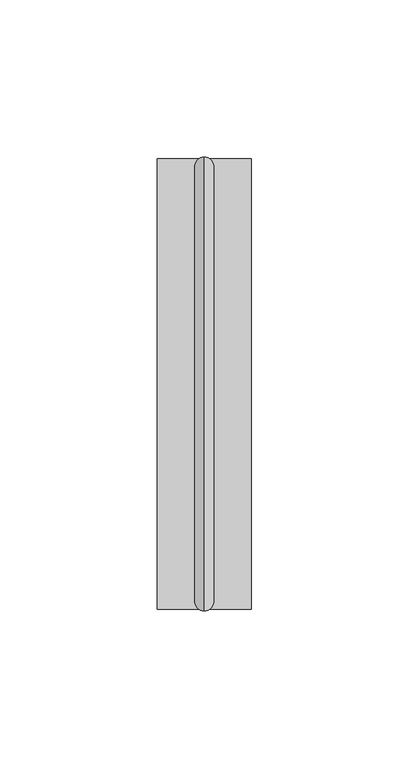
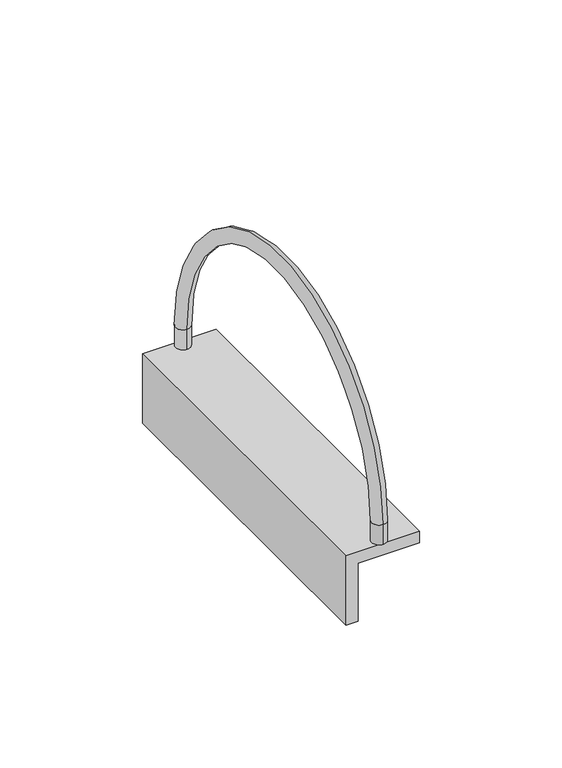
"""IFC4 building model written with IfcOpenShell, lengths in millimetres: proxy geometry, SUJECCIÓN DE TUBERÍA : SUJECCIÓN DE TUBERÍA D-50."""

from ifc_helpers import new_model, si_unit, point, frame, origin, place, context, project, spatial, polyline, circle_curve, ellipse_curve, trimmed, outline, extrude, source, transform, mapped, element, save
from ifc_brep_helpers import plane_surface, cylinder_surface, revolved_surface, advanced_brep


def generic_models_3b980cd4(model_context):
    return source(origin(), model_context, "Body", "SolidModel", [
        advanced_brep(
        [(15.0, -111.1270586, 0.0), (15.0, -117.1270586, 0.0), (15.0, -111.1270586, 8.4677949), (15.0, -117.1270586, 8.4677949), (15.0, -249.5, 8.4677949), (15.0, -255.5, 8.4677949), (15.0, -255.5, 0.0), (15.0, -249.5, 0.0)],
        [
            (0, 1, circle_curve(frame((15.0, -114.1270586, 0.0), z_axis=(0.0, 0.0, -1.0), x_axis=(0.0, -1.0, 0.0)), 3.0)),
            (1, 0, circle_curve(frame((15.0, -114.1270586, 0.0), z_axis=(0.0, 0.0, -1.0), x_axis=(0.0, -1.0, 0.0)), 3.0)),
            (0, 2),
            (2, 3, circle_curve(frame((15.0, -114.1270586, 8.4677949), z_axis=(0.0, 0.0, -1.0), x_axis=(0.0, -1.0, 0.0)), 3.0)),
            (3, 1),
            (3, 2, circle_curve(frame((15.0, -114.1270586, 8.4677949), z_axis=(0.0, 0.0, -1.0), x_axis=(0.0, -1.0, 0.0)), 3.0)),
            (4, 3, circle_curve(frame((15.0, -183.3135293, 8.4677949), z_axis=(-1.0, 0.0, 0.0), x_axis=(0.0, 1.0, 0.0)), 66.1864707)),
            (2, 5, circle_curve(frame((15.0, -183.3135293, 8.4677949), z_axis=(1.0, 0.0, 0.0), x_axis=(0.0, 1.0, 0.0)), 72.1864707)),
            (5, 4, circle_curve(frame((15.0, -252.5, 8.4677949), z_axis=(0.0, 0.0, 1.0), x_axis=(0.0, 1.0, 0.0)), 3.0)),
            (4, 5, circle_curve(frame((15.0, -252.5, 8.4677949), z_axis=(0.0, 0.0, 1.0), x_axis=(0.0, 1.0, 0.0)), 3.0)),
            (6, 7, circle_curve(frame((15.0, -252.5, 0.0), z_axis=(0.0, 0.0, -1.0), x_axis=(0.0, 1.0, 0.0)), 3.0)),
            (7, 6, circle_curve(frame((15.0, -252.5, 0.0), z_axis=(0.0, 0.0, -1.0), x_axis=(0.0, 1.0, 0.0)), 3.0)),
            (5, 6),
            (7, 4),
        ],
        [
            plane_surface(frame((0.0, -114.1270586, 0.0), z_axis=(0.0, 0.0, -1.0), x_axis=(1.0, 0.0, 0.0))),
            cylinder_surface(frame((15.0, -114.1270586, 0.0), z_axis=(0.0, 0.0, -1.0), x_axis=(0.0, -1.0, 0.0)), 3.0),
            revolved_surface(trimmed(ellipse_curve(frame((15.0, -114.1270586, 8.4677949), z_axis=(0.0, 0.0, -1.0), x_axis=(0.0, -1.0, 0.0)), 3.0, 3.0), [point((15.0, -111.1270586, 8.4677949))], [point((15.0, -117.1270586, 8.4677949))], True, "CARTESIAN"), (0.0, -183.3135293, 8.4677949), (1.0, 0.0, 0.0)),
            revolved_surface(trimmed(ellipse_curve(frame((15.0, -114.1270586, 8.4677949), z_axis=(0.0, 0.0, -1.0), x_axis=(0.0, -1.0, 0.0)), 3.0, 3.0), [point((15.0, -117.1270586, 8.4677949))], [point((15.0, -111.1270586, 8.4677949))], True, "CARTESIAN"), (0.0, -183.3135293, 8.4677949), (1.0, 0.0, 0.0)),
            plane_surface(frame((0.0, -252.5, 0.0), z_axis=(0.0, 0.0, -1.0), x_axis=(1.0, 0.0, 0.0))),
            cylinder_surface(frame((15.0, -252.5, 8.4677949), z_axis=(0.0, 0.0, 1.0), x_axis=(0.0, 1.0, 0.0)), 3.0),
        ],
        [
            (0, [[1, 2]]),
            (1, [[-1, 3, 4, 5]]),
            (1, [[-2, -5, 6, -3]]),
            (2, [[7, -4, 8, 9]]),
            (3, [[-8, -6, -7, 10]]),
            (4, [[11, 12]]),
            (5, [[-9, 13, -12, 14]]),
            (5, [[-10, -14, -11, -13]]),
        ],
    ),
        extrude(outline(polyline([(0.0, 0.0), (-30.0, 0.0), (-30.0, 5.0), (-5.0, 5.0), (-5.0, 30.0), (0.0, 30.0), (0.0, 0.0)])), frame((0.0, -255.0, 0.0), z_axis=(0.0, 1.0, 0.0), x_axis=(0.0, 0.0, 1.0)), (0.0, 0.0, 1.0), 143.3729414),
    ])


if __name__ == "__main__":
    model = new_model("IFC4")
    model_context = context("Model", 3, world=origin())
    ifc_project = project(units=[si_unit("LENGTHUNIT", "METRE", prefix="MILLI")], contexts=[model_context])
    site = spatial("IfcSite", under=ifc_project)
    building = spatial("IfcBuilding", under=site)
    placement = place(None, origin())
    generic_models_shape = generic_models_3b980cd4(model_context)
    element("IfcBuildingElementProxy", 1, Name="SUJECCIÓN DE TUBERÍA : SUJECCIÓN DE TUBERÍA D-50", ObjectType="SUJECCIÓN DE TUBERÍA : SUJECCIÓN DE TUBERÍA D-50", at=placement, inside=building, context=model_context, shape_type="MappedRepresentation", body=[
        mapped(generic_models_shape, transform((0.0, 0.0, 0.0), x_axis=(1.0, 0.0, 0.0), y_axis=(0.0, 1.0, 0.0), z_axis=(0.0, 0.0, 1.0))),
    ])
    save(model, "model.ifc")
